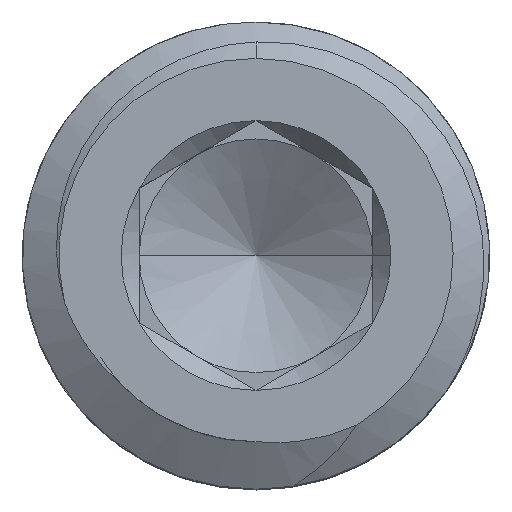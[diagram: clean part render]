
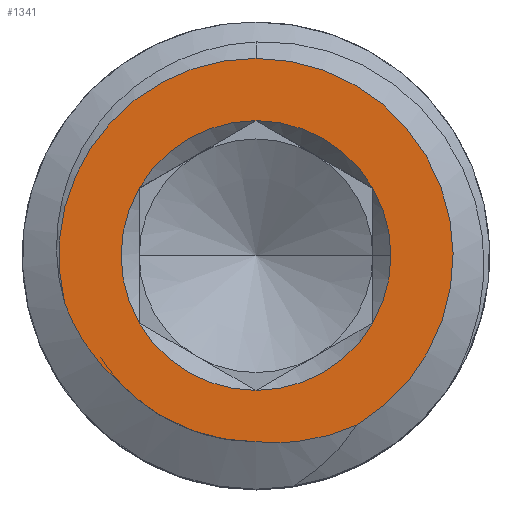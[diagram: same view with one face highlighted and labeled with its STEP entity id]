
A CAD part, top view. The second image highlights one B-rep face of the part: STEP entity #1341.
In plain terms, the highlighted planar face has unit normal (0, 0, 1).
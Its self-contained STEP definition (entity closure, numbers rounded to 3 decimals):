
#34 = CIRCLE ( 'NONE', #2361, 2.309 ) ;
#49 = EDGE_CURVE ( 'NONE', #2127, #244, #2379, .T. ) ;
#59 = DIRECTION ( 'NONE',  ( 0., -1., 0. ) ) ;
#84 = EDGE_LOOP ( 'NONE', ( #1255, #1879, #563, #2410, #658, #752, #2364 ) ) ;
#104 = ORIENTED_EDGE ( 'NONE', *, *, #112, .T. ) ;
#112 = EDGE_CURVE ( 'NONE', #1627, #708, #700, .T. ) ;
#131 = VERTEX_POINT ( 'NONE', #907 ) ;
#141 = FACE_BOUND ( 'NONE', #84, .T. ) ;
#150 = CIRCLE ( 'NONE', #1700, 2.309 ) ;
#154 = DIRECTION ( 'NONE',  ( 0., 1., 0. ) ) ;
#193 = CIRCLE ( 'NONE', #595, 2.309 ) ;
#244 = VERTEX_POINT ( 'NONE', #2256 ) ;
#259 = CARTESIAN_POINT ( 'NONE',  ( -2.487, -2.065, 5. ) ) ;
#261 = CARTESIAN_POINT ( 'NONE',  ( 0., 0., 5. ) ) ;
#277 = CARTESIAN_POINT ( 'NONE',  ( -2.254, -2.254, 5. ) ) ;
#342 = AXIS2_PLACEMENT_3D ( 'NONE', #1242, #2529, #633 ) ;
#354 = DIRECTION ( 'NONE',  ( 1., 0., 0. ) ) ;
#462 = CARTESIAN_POINT ( 'NONE',  ( -3.025, -1.358, 5. ) ) ;
#501 = CARTESIAN_POINT ( 'NONE',  ( -3.223, -0.961, 5. ) ) ;
#533 = ORIENTED_EDGE ( 'NONE', *, *, #1306, .F. ) ;
#563 = ORIENTED_EDGE ( 'NONE', *, *, #1326, .F. ) ;
#567 = CARTESIAN_POINT ( 'NONE',  ( 0., 2.309, 5. ) ) ;
#595 = AXIS2_PLACEMENT_3D ( 'NONE', #888, #2144, #1354 ) ;
#633 = DIRECTION ( 'NONE',  ( 1., 0., 0. ) ) ;
#656 = DIRECTION ( 'NONE',  ( 0., 0., 1. ) ) ;
#658 = ORIENTED_EDGE ( 'NONE', *, *, #49, .F. ) ;
#664 = VERTEX_POINT ( 'NONE', #1357 ) ;
#674 = ORIENTED_EDGE ( 'NONE', *, *, #1604, .F. ) ;
#690 = CARTESIAN_POINT ( 'NONE',  ( -2.688, -1.849, 5. ) ) ;
#700 = CIRCLE ( 'NONE', #2113, 3.375 ) ;
#708 = VERTEX_POINT ( 'NONE', #2449 ) ;
#752 = ORIENTED_EDGE ( 'NONE', *, *, #1758, .F. ) ;
#782 = CARTESIAN_POINT ( 'NONE',  ( 0., -3.188, 5. ) ) ;
#830 = VERTEX_POINT ( 'NONE', #1194 ) ;
#832 = CARTESIAN_POINT ( 'NONE',  ( 0.297, -3.219, 5. ) ) ;
#841 = CARTESIAN_POINT ( 'NONE',  ( 0., 0., 5. ) ) ;
#888 = CARTESIAN_POINT ( 'NONE',  ( 0., 0., 5. ) ) ;
#907 = CARTESIAN_POINT ( 'NONE',  ( -2., 1.155, 5. ) ) ;
#911 = CARTESIAN_POINT ( 'NONE',  ( -3.273, -0.823, 5. ) ) ;
#942 = AXIS2_PLACEMENT_3D ( 'NONE', #261, #1300, #2156 ) ;
#962 = VERTEX_POINT ( 'NONE', #2189 ) ;
#972 = EDGE_CURVE ( 'NONE', #2611, #830, #1913, .T. ) ;
#1008 = CARTESIAN_POINT ( 'NONE',  ( -0.211, -3.188, 5. ) ) ;
#1041 = CARTESIAN_POINT ( 'NONE',  ( 1.733, -2.896, 5. ) ) ;
#1078 = CARTESIAN_POINT ( 'NONE',  ( 0., 0., 5. ) ) ;
#1118 = CIRCLE ( 'NONE', #2212, 3.375 ) ;
#1138 = EDGE_CURVE ( 'NONE', #664, #1363, #2683, .T. ) ;
#1194 = CARTESIAN_POINT ( 'NONE',  ( -3.273, -0.823, 5. ) ) ;
#1227 = CARTESIAN_POINT ( 'NONE',  ( -0.421, -3.167, 5. ) ) ;
#1242 = CARTESIAN_POINT ( 'NONE',  ( 0., 0., 5. ) ) ;
#1255 = ORIENTED_EDGE ( 'NONE', *, *, #2225, .F. ) ;
#1257 = AXIS2_PLACEMENT_3D ( 'NONE', #2463, #1438, #154 ) ;
#1265 = DIRECTION ( 'NONE',  ( 0., -1., 0. ) ) ;
#1271 = CARTESIAN_POINT ( 'NONE',  ( 0.597, -3.209, 5. ) ) ;
#1300 = DIRECTION ( 'NONE',  ( 0., 0., 1. ) ) ;
#1306 = EDGE_CURVE ( 'NONE', #962, #2611, #1347, .T. ) ;
#1314 = DIRECTION ( 'NONE',  ( 0., 0., 1. ) ) ;
#1326 = EDGE_CURVE ( 'NONE', #2473, #664, #34, .T. ) ;
#1328 = CARTESIAN_POINT ( 'NONE',  ( -2.947, -1.487, 5. ) ) ;
#1341 = ADVANCED_FACE ( 'NONE', ( #141, #2492 ), #1810, .F. ) ;
#1347 = B_SPLINE_CURVE_WITH_KNOTS ( 'NONE', 3,
 ( #782, #1008, #1227, #1862, #1661, #1626, #2501, #1849, #1643, #1419 ),
 .UNSPECIFIED., .F., .F.,
 ( 4, 2, 2, 2, 4 ),
 ( 0., 0.001, 0.001, 0.002, 0.003 ),
 .UNSPECIFIED. ) ;
#1354 = DIRECTION ( 'NONE',  ( 1., 0., 0. ) ) ;
#1357 = CARTESIAN_POINT ( 'NONE',  ( 2., 1.155, 5. ) ) ;
#1363 = VERTEX_POINT ( 'NONE', #567 ) ;
#1386 = B_SPLINE_CURVE_WITH_KNOTS ( 'NONE', 3,
 ( #1041, #1881, #2718, #1271, #832, #1677 ),
 .UNSPECIFIED., .F., .F.,
 ( 4, 2, 4 ),
 ( 0.002, 0.003, 0.004 ),
 .UNSPECIFIED. ) ;
#1404 = CARTESIAN_POINT ( 'NONE',  ( -2., -1.155, 5. ) ) ;
#1419 = CARTESIAN_POINT ( 'NONE',  ( -2.254, -2.254, 5. ) ) ;
#1438 = DIRECTION ( 'NONE',  ( 0., 0., -1. ) ) ;
#1495 = AXIS2_PLACEMENT_3D ( 'NONE', #2412, #2044, #354 ) ;
#1575 = CARTESIAN_POINT ( 'NONE',  ( 2.309, 0., 5. ) ) ;
#1604 = EDGE_CURVE ( 'NONE', #1627, #962, #1386, .T. ) ;
#1626 = CARTESIAN_POINT ( 'NONE',  ( -1.414, -2.865, 5. ) ) ;
#1627 = VERTEX_POINT ( 'NONE', #1690 ) ;
#1634 = CARTESIAN_POINT ( 'NONE',  ( 0., 0., 5. ) ) ;
#1643 = CARTESIAN_POINT ( 'NONE',  ( -2.105, -2.403, 5. ) ) ;
#1661 = CARTESIAN_POINT ( 'NONE',  ( -1.028, -3.025, 5. ) ) ;
#1666 = DIRECTION ( 'NONE',  ( 1., 0., 0. ) ) ;
#1677 = CARTESIAN_POINT ( 'NONE',  ( 0., -3.188, 5. ) ) ;
#1690 = CARTESIAN_POINT ( 'NONE',  ( 1.733, -2.896, 5. ) ) ;
#1700 = AXIS2_PLACEMENT_3D ( 'NONE', #2025, #2243, #2485 ) ;
#1716 = EDGE_CURVE ( 'NONE', #244, #2473, #193, .T. ) ;
#1727 = EDGE_CURVE ( 'NONE', #131, #2188, #1742, .T. ) ;
#1742 = CIRCLE ( 'NONE', #1870, 2.309 ) ;
#1744 = CARTESIAN_POINT ( 'NONE',  ( 0., 0., 5. ) ) ;
#1758 = EDGE_CURVE ( 'NONE', #2188, #2127, #2137, .T. ) ;
#1765 = ORIENTED_EDGE ( 'NONE', *, *, #2302, .T. ) ;
#1810 = PLANE ( 'NONE',  #1257 ) ;
#1849 = CARTESIAN_POINT ( 'NONE',  ( -1.945, -2.535, 5. ) ) ;
#1862 = CARTESIAN_POINT ( 'NONE',  ( -0.829, -3.085, 5. ) ) ;
#1870 = AXIS2_PLACEMENT_3D ( 'NONE', #1744, #1314, #1949 ) ;
#1879 = ORIENTED_EDGE ( 'NONE', *, *, #1138, .F. ) ;
#1881 = CARTESIAN_POINT ( 'NONE',  ( 1.464, -3.022, 5. ) ) ;
#1913 = B_SPLINE_CURVE_WITH_KNOTS ( 'NONE', 3,
 ( #2576, #259, #690, #1328, #462, #2178, #501, #911 ),
 .UNSPECIFIED., .F., .F.,
 ( 4, 2, 2, 4 ),
 ( 0., 0.001, 0.001, 0.002 ),
 .UNSPECIFIED. ) ;
#1943 = DIRECTION ( 'NONE',  ( 0., 0., 1. ) ) ;
#1949 = DIRECTION ( 'NONE',  ( 1., 0., 0. ) ) ;
#2025 = CARTESIAN_POINT ( 'NONE',  ( 0., 0., 5. ) ) ;
#2033 = DIRECTION ( 'NONE',  ( 0., 0., 1. ) ) ;
#2044 = DIRECTION ( 'NONE',  ( 0., 0., 1. ) ) ;
#2113 = AXIS2_PLACEMENT_3D ( 'NONE', #1078, #656, #59 ) ;
#2127 = VERTEX_POINT ( 'NONE', #2438 ) ;
#2137 = CIRCLE ( 'NONE', #942, 2.309 ) ;
#2144 = DIRECTION ( 'NONE',  ( 0., 0., 1. ) ) ;
#2156 = DIRECTION ( 'NONE',  ( 1., 0., 0. ) ) ;
#2178 = CARTESIAN_POINT ( 'NONE',  ( -3.163, -1.096, 5. ) ) ;
#2188 = VERTEX_POINT ( 'NONE', #1404 ) ;
#2189 = CARTESIAN_POINT ( 'NONE',  ( 0., -3.188, 5. ) ) ;
#2212 = AXIS2_PLACEMENT_3D ( 'NONE', #841, #1943, #1265 ) ;
#2225 = EDGE_CURVE ( 'NONE', #1363, #131, #150, .T. ) ;
#2231 = EDGE_LOOP ( 'NONE', ( #674, #104, #1765, #2641, #533 ) ) ;
#2243 = DIRECTION ( 'NONE',  ( 0., 0., 1. ) ) ;
#2256 = CARTESIAN_POINT ( 'NONE',  ( 2., -1.155, 5. ) ) ;
#2302 = EDGE_CURVE ( 'NONE', #708, #830, #1118, .T. ) ;
#2361 = AXIS2_PLACEMENT_3D ( 'NONE', #1634, #2033, #1666 ) ;
#2364 = ORIENTED_EDGE ( 'NONE', *, *, #1727, .F. ) ;
#2379 = CIRCLE ( 'NONE', #342, 2.309 ) ;
#2410 = ORIENTED_EDGE ( 'NONE', *, *, #1716, .F. ) ;
#2412 = CARTESIAN_POINT ( 'NONE',  ( 0., 0., 5. ) ) ;
#2438 = CARTESIAN_POINT ( 'NONE',  ( 0., -2.309, 5. ) ) ;
#2449 = CARTESIAN_POINT ( 'NONE',  ( 0., 3.375, 5. ) ) ;
#2463 = CARTESIAN_POINT ( 'NONE',  ( 0., 0., 5. ) ) ;
#2473 = VERTEX_POINT ( 'NONE', #1575 ) ;
#2485 = DIRECTION ( 'NONE',  ( 1., 0., 0. ) ) ;
#2492 = FACE_OUTER_BOUND ( 'NONE', #2231, .T. ) ;
#2501 = CARTESIAN_POINT ( 'NONE',  ( -1.6, -2.765, 5. ) ) ;
#2529 = DIRECTION ( 'NONE',  ( 0., 0., 1. ) ) ;
#2576 = CARTESIAN_POINT ( 'NONE',  ( -2.254, -2.254, 5. ) ) ;
#2611 = VERTEX_POINT ( 'NONE', #277 ) ;
#2641 = ORIENTED_EDGE ( 'NONE', *, *, #972, .F. ) ;
#2683 = CIRCLE ( 'NONE', #1495, 2.309 ) ;
#2718 = CARTESIAN_POINT ( 'NONE',  ( 1.183, -3.109, 5. ) ) ;
